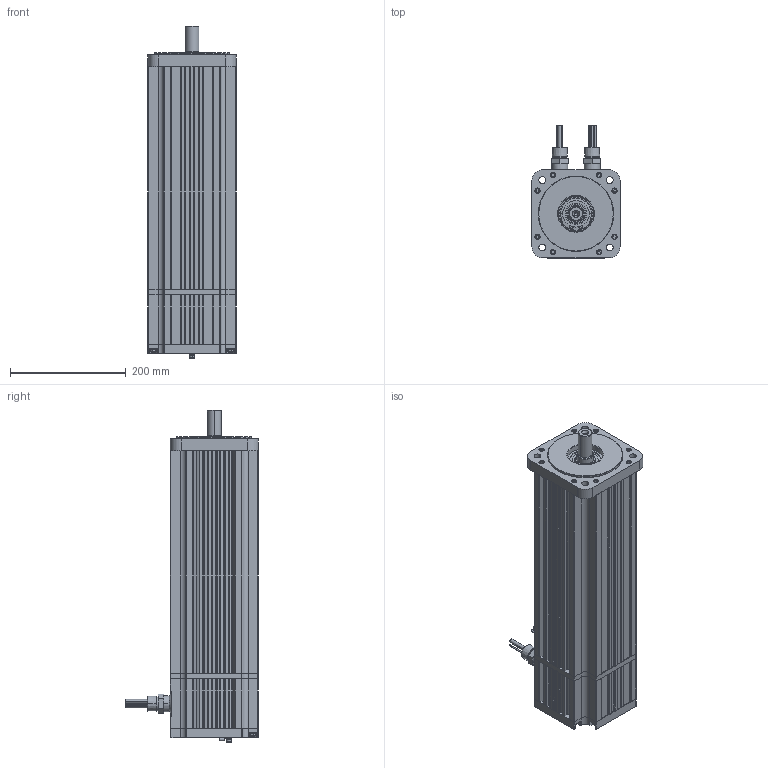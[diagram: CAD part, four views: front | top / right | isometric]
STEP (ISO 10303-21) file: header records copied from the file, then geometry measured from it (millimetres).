
FILE_DESCRIPTION (( 'STEP AP203' ), '1' );
FILE_NAME ('M465-GNSC-9T08.STEP', '2013-05-01T14:07:38', ( '' ), ( '' ), 'SwSTEP 2.0', 'SolidWorks 2012', '' );
FILE_SCHEMA (( 'CONFIG_CONTROL_DESIGN' ));
Products named in the file (1): M465-GNSC-9T08
Bounding box: 152.4 x 229.36 x 574.34 mm (x, y, z)
Volume: 4682933.3 mm3; surface area: 931745.8 mm2
Topology: 73 solids, 73 shells, 2194 faces, 5177 edges, 3256 vertices
Faces by surface type: cylinder 938, plane 778, cone 283, torus 143, bspline 52
Entity records: 68535 total; most frequent: CARTESIAN_POINT 16678, DIRECTION 11509, ORIENTED_EDGE 10234, EDGE_CURVE 5117, AXIS2_PLACEMENT_3D 4504, VERTEX_POINT 3256, EDGE_LOOP 2521, VECTOR 2501
